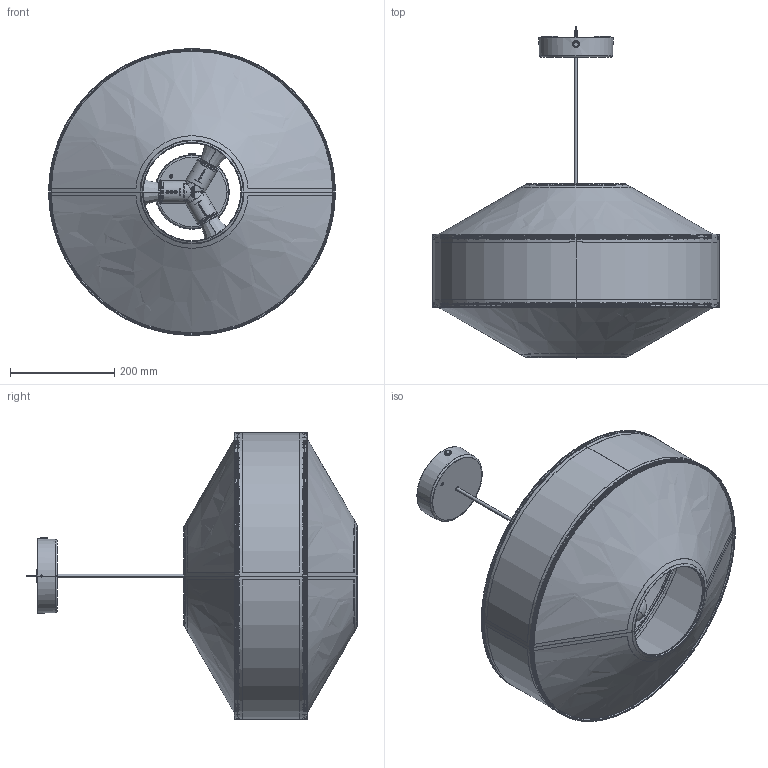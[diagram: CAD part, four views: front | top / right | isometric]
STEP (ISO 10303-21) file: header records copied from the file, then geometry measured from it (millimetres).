
FILE_DESCRIPTION(/* description */ (''),/* implementation_level */ '2;1');
FILE_NAME(/* name */ 'Kite Pendant Ø55 for web',/* time_stamp */ '2024-07-17T14:06:29+02:00',/* author */ (''),/* organization */ (''),/* preprocessor_version */ 'ST-DEVELOPER v19.2',/* originating_system */ 'Rhino 8.7',/* authorisation */ '');
FILE_SCHEMA (('CONFIG_CONTROL_DESIGN'));
Products named in the file (33): Document; SHADE-550_ASM; SHADE-550-CENTER-RING_ASM; SHADE-550-CENTER-RING; CIRCLE-O549-D4; SHADE-550-TOP_ASM; SHADE-550-TOP; Block 01; CIRCLE-O205-D5; LAMP-HOLDER_ASM; LED_BULB_E27_ASM; IMPORTED3; IMPORTED2; IMPORTED4; IMPORTED1; E27-LAMPHOLDER-PLASTIC; LAMP-HOLDER-TOP; LAMP-HOLDER-BOTTOM; SCREW-PA3X10; HOLE-CAP; 301-CLIP; KITE550-TUBE; CABLE-CE; CABLE-UL; M4X5PM; TOOTH_WASHER_M4; RUBBER_PLUG; M6_SET_SCREW; GROUND_WIRE-M5-M4; KITE_CANOPY; KITE-MOUNTING; KITE-CRADLE-DIE-CAST; CABLE-O55
Bounding box: 550 x 636.97 x 550 mm (x, y, z)
Volume: 412111.7 mm3; surface area: 2160333.8 mm2
Topology: 50 solids, 75 shells, 4473 faces, 11994 edges, 7800 vertices
Faces by surface type: plane 2994, cylinder 836, bspline 643
Entity records: 152182 total; most frequent: CARTESIAN_POINT 74117, ORIENTED_EDGE 20286, EDGE_CURVE 10179, B_SPLINE_CURVE_WITH_KNOTS 8942, VERTEX_POINT 6657, DIRECTION 6075, AXIS2_PLACEMENT_3D 4737, EDGE_LOOP 4072
